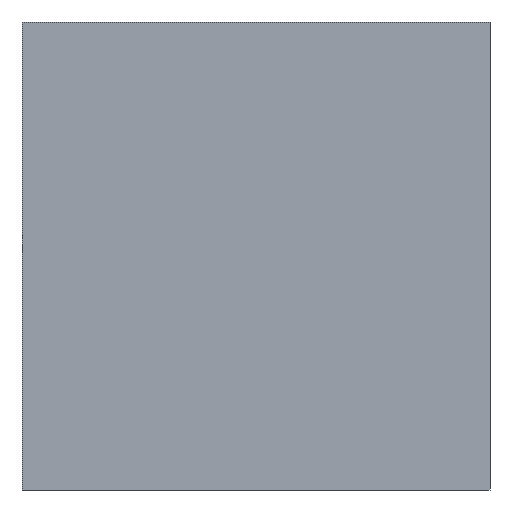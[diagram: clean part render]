
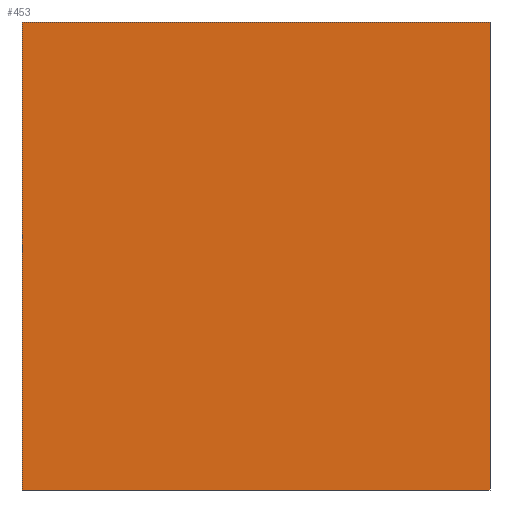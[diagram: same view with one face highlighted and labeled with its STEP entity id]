
A CAD part, front view. The second image highlights one B-rep face of the part: STEP entity #453.
In plain terms, the highlighted planar face has unit normal (0, -1, 0).
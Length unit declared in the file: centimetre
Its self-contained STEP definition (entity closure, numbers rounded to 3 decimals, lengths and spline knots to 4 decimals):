
#2 = CARTESIAN_POINT ( 'NONE',  ( 0., 0., 0. ) ) ;
#16 = EDGE_CURVE ( 'NONE', #286, #476, #87, .T. ) ;
#26 = DIRECTION ( 'NONE',  ( 0., 0., -1. ) ) ;
#39 = DIRECTION ( 'NONE',  ( 1., 0., 0. ) ) ;
#55 = LINE ( 'NONE', #487, #187 ) ;
#64 = CARTESIAN_POINT ( 'NONE',  ( 0., 0., 1000. ) ) ;
#87 = LINE ( 'NONE', #395, #216 ) ;
#127 = VECTOR ( 'NONE', #307, 100. ) ;
#138 = EDGE_CURVE ( 'NONE', #419, #481, #55, .T. ) ;
#147 = EDGE_LOOP ( 'NONE', ( #477, #252, #415, #193 ) ) ;
#148 = LINE ( 'NONE', #2, #127 ) ;
#157 = CARTESIAN_POINT ( 'NONE',  ( 0., 0., 1000. ) ) ;
#187 = VECTOR ( 'NONE', #257, 100. ) ;
#193 = ORIENTED_EDGE ( 'NONE', *, *, #138, .T. ) ;
#196 = PLANE ( 'NONE',  #498 ) ;
#216 = VECTOR ( 'NONE', #26, 100. ) ;
#235 = CARTESIAN_POINT ( 'NONE',  ( 1000., 0., 0. ) ) ;
#241 = CARTESIAN_POINT ( 'NONE',  ( 0., 0., 1000. ) ) ;
#252 = ORIENTED_EDGE ( 'NONE', *, *, #16, .F. ) ;
#257 = DIRECTION ( 'NONE',  ( 0., 0., -1. ) ) ;
#266 = DIRECTION ( 'NONE',  ( 0., 0., 1. ) ) ;
#286 = VERTEX_POINT ( 'NONE', #455 ) ;
#307 = DIRECTION ( 'NONE',  ( 1., 0., 0. ) ) ;
#321 = VECTOR ( 'NONE', #39, 100. ) ;
#345 = LINE ( 'NONE', #157, #321 ) ;
#381 = CARTESIAN_POINT ( 'NONE',  ( 0., 0., 0. ) ) ;
#395 = CARTESIAN_POINT ( 'NONE',  ( 1000., 0., 1000. ) ) ;
#415 = ORIENTED_EDGE ( 'NONE', *, *, #465, .F. ) ;
#417 = FACE_OUTER_BOUND ( 'NONE', #147, .T. ) ;
#419 = VERTEX_POINT ( 'NONE', #241 ) ;
#445 = EDGE_CURVE ( 'NONE', #481, #476, #148, .T. ) ;
#453 = ADVANCED_FACE ( 'NONE', ( #417 ), #196, .F. ) ;
#455 = CARTESIAN_POINT ( 'NONE',  ( 1000., 0., 1000. ) ) ;
#460 = DIRECTION ( 'NONE',  ( 0., 1., 0. ) ) ;
#465 = EDGE_CURVE ( 'NONE', #419, #286, #345, .T. ) ;
#476 = VERTEX_POINT ( 'NONE', #235 ) ;
#477 = ORIENTED_EDGE ( 'NONE', *, *, #445, .T. ) ;
#481 = VERTEX_POINT ( 'NONE', #381 ) ;
#487 = CARTESIAN_POINT ( 'NONE',  ( 0., 0., 1000. ) ) ;
#498 = AXIS2_PLACEMENT_3D ( 'NONE', #64, #460, #266 ) ;
